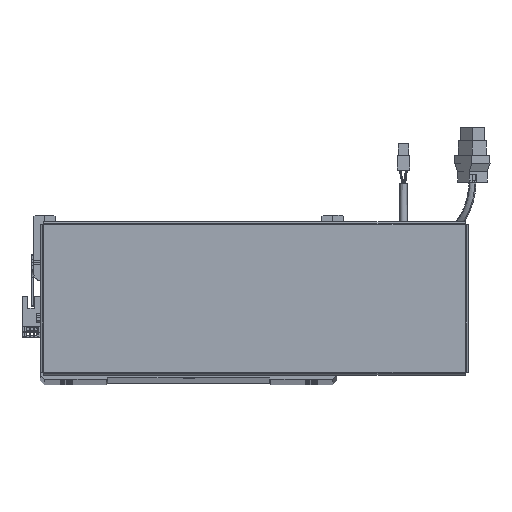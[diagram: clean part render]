
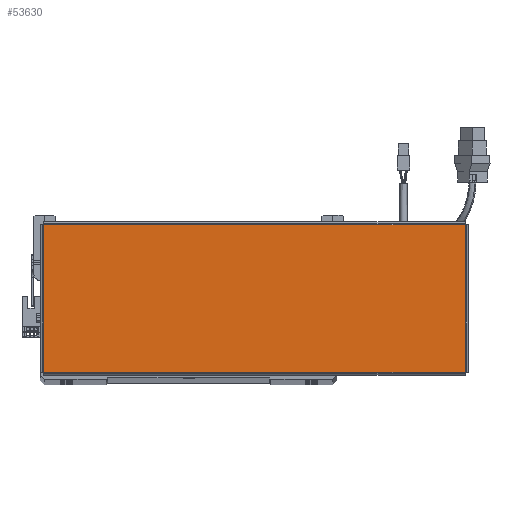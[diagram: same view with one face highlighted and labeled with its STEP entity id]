
A CAD part, top view. The second image highlights one B-rep face of the part: STEP entity #53630.
In plain terms, the highlighted planar face has unit normal (0, 0, 1).
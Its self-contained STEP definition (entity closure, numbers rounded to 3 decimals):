
#2950 = PLANE ( 'NONE',  #38641 ) ;
#3239 = VECTOR ( 'NONE', #78109, 1000. ) ;
#5953 = VERTEX_POINT ( 'NONE', #43792 ) ;
#6151 = FACE_OUTER_BOUND ( 'NONE', #75569, .T. ) ;
#10901 = CARTESIAN_POINT ( 'NONE',  ( 156.543, 54.763, 0. ) ) ;
#11765 = CARTESIAN_POINT ( 'NONE',  ( 156.513, -54.793, 0. ) ) ;
#12264 = ORIENTED_EDGE ( 'NONE', *, *, #26840, .T. ) ;
#18108 = DIRECTION ( 'NONE',  ( 0., 1., 0. ) ) ;
#20637 = VECTOR ( 'NONE', #44259, 1000. ) ;
#25985 = CARTESIAN_POINT ( 'NONE',  ( -156.513, 54.793, 0. ) ) ;
#26840 = EDGE_CURVE ( 'NONE', #27252, #5953, #36541, .T. ) ;
#27252 = VERTEX_POINT ( 'NONE', #47492 ) ;
#27335 = EDGE_CURVE ( 'NONE', #56959, #73243, #44062, .T. ) ;
#36174 = DIRECTION ( 'NONE',  ( 1., 0., 0. ) ) ;
#36189 = CARTESIAN_POINT ( 'NONE',  ( 156.513, 54.763, 0. ) ) ;
#36214 = ORIENTED_EDGE ( 'NONE', *, *, #27335, .T. ) ;
#36541 = LINE ( 'NONE', #60759, #74390 ) ;
#38641 = AXIS2_PLACEMENT_3D ( 'NONE', #50708, #75781, #45134 ) ;
#39350 = CARTESIAN_POINT ( 'NONE',  ( -156.513, 54.763, 0. ) ) ;
#43792 = CARTESIAN_POINT ( 'NONE',  ( 156.513, -54.763, 0. ) ) ;
#44062 = LINE ( 'NONE', #10901, #3239 ) ;
#44259 = DIRECTION ( 'NONE',  ( 0., -1., 0. ) ) ;
#45134 = DIRECTION ( 'NONE',  ( 1., 0., 0. ) ) ;
#47492 = CARTESIAN_POINT ( 'NONE',  ( -156.513, -54.763, 0. ) ) ;
#50708 = CARTESIAN_POINT ( 'NONE',  ( 0., 0., 0. ) ) ;
#53630 = ADVANCED_FACE ( 'NONE', ( #6151 ), #2950, .T. ) ;
#55127 = LINE ( 'NONE', #11765, #59830 ) ;
#56959 = VERTEX_POINT ( 'NONE', #36189 ) ;
#59448 = ORIENTED_EDGE ( 'NONE', *, *, #70296, .T. ) ;
#59830 = VECTOR ( 'NONE', #18108, 1000. ) ;
#60153 = EDGE_CURVE ( 'NONE', #73243, #27252, #78425, .T. ) ;
#60759 = CARTESIAN_POINT ( 'NONE',  ( -156.543, -54.763, 0. ) ) ;
#70296 = EDGE_CURVE ( 'NONE', #5953, #56959, #55127, .T. ) ;
#73243 = VERTEX_POINT ( 'NONE', #39350 ) ;
#74390 = VECTOR ( 'NONE', #36174, 1000. ) ;
#75569 = EDGE_LOOP ( 'NONE', ( #12264, #59448, #36214, #76797 ) ) ;
#75781 = DIRECTION ( 'NONE',  ( 0., 0., 1. ) ) ;
#76797 = ORIENTED_EDGE ( 'NONE', *, *, #60153, .T. ) ;
#78109 = DIRECTION ( 'NONE',  ( -1., 0., 0. ) ) ;
#78425 = LINE ( 'NONE', #25985, #20637 ) ;
